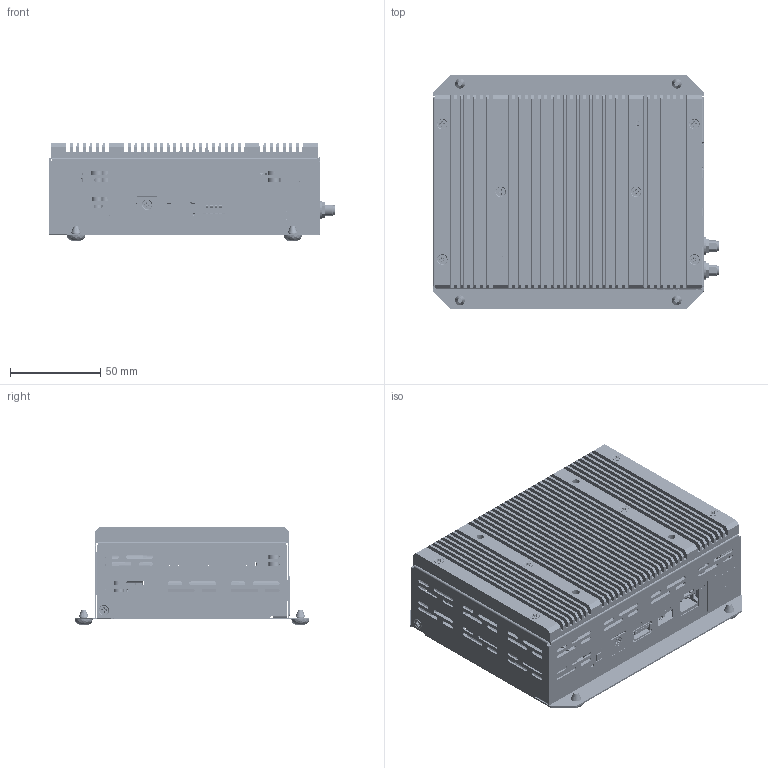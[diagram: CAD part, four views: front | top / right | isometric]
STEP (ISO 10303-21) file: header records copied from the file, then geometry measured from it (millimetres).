
FILE_DESCRIPTION((''),'2;1');
FILE_NAME('ECL4C-010','2026-06-02T11:05:36',('gijyu181'),(''),'CREO PARAMETRIC BY PTC INC, 2018050','CREO PARAMETRIC BY PTC INC, 2018050','');
FILE_SCHEMA(('CONFIG_CONTROL_DESIGN','SHAPE_APPEARANCE_LAYERS_GROUPS'));
Products named in the file (1): ECL4C-010
Bounding box: 158.5 x 130 x 54 mm (x, y, z)
Volume: 258952.1 mm3; surface area: 262226.8 mm2
Topology: 11 solids, 52 shells, 22471 faces, 66440 edges, 43908 vertices
Faces by surface type: plane 16966, cylinder 4358, extrusion 795, cone 228, bspline 63, torus 39, sphere 22
Entity records: 868040 total; most frequent: CARTESIAN_POINT 149579, ORIENTED_EDGE 132193, DIRECTION 117125, EDGE_CURVE 66418, VECTOR 56091, LINE 55296, VERTEX_POINT 43909, AXIS2_PLACEMENT_3D 30517
